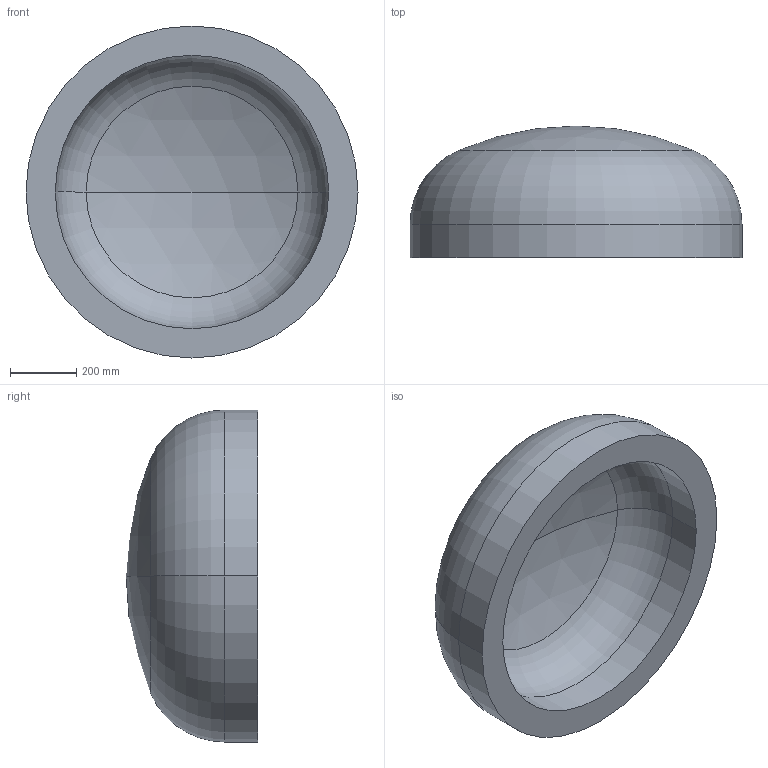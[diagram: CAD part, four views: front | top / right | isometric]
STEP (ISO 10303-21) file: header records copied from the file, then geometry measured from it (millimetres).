
FILE_DESCRIPTION (( 'STEP AP203' ), '1' );
FILE_NAME ('DIN 28013 Korbbogenform_-_Boden DIN 28013 - 1000 x 100 - I - s=88.step', '2016-07-01T08:55:23', ( '' ), ( '' ), 'SwSTEP 2.0', 'SolidWorks 2013', '' );
FILE_SCHEMA (( 'CONFIG_CONTROL_DESIGN' ));
Length unit declared in the file: millimetre
Products named in the file (1): DIN 28013 Korbbogenform_-_Boden DIN 28013 - 1000 x 100 - I - s=88
Bounding box: 1000 x 396.41 x 1000 mm (x, y, z)
Volume: 111098743.8 mm3; surface area: 2793321.7 mm2
Topology: 1 solids, 1 shells, 13 faces, 24 edges, 14 vertices
Faces by surface type: torus 4, cylinder 4, sphere 4, plane 1
Entity records: 407 total; most frequent: DIRECTION 72, CARTESIAN_POINT 52, ORIENTED_EDGE 48, AXIS2_PLACEMENT_3D 34, EDGE_CURVE 24, CIRCLE 20, VERTEX_POINT 14, EDGE_LOOP 14
